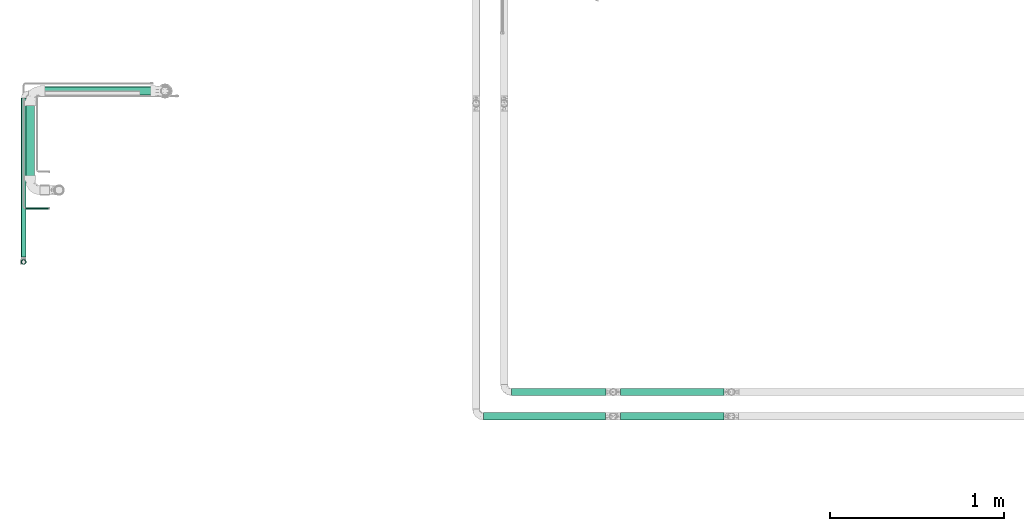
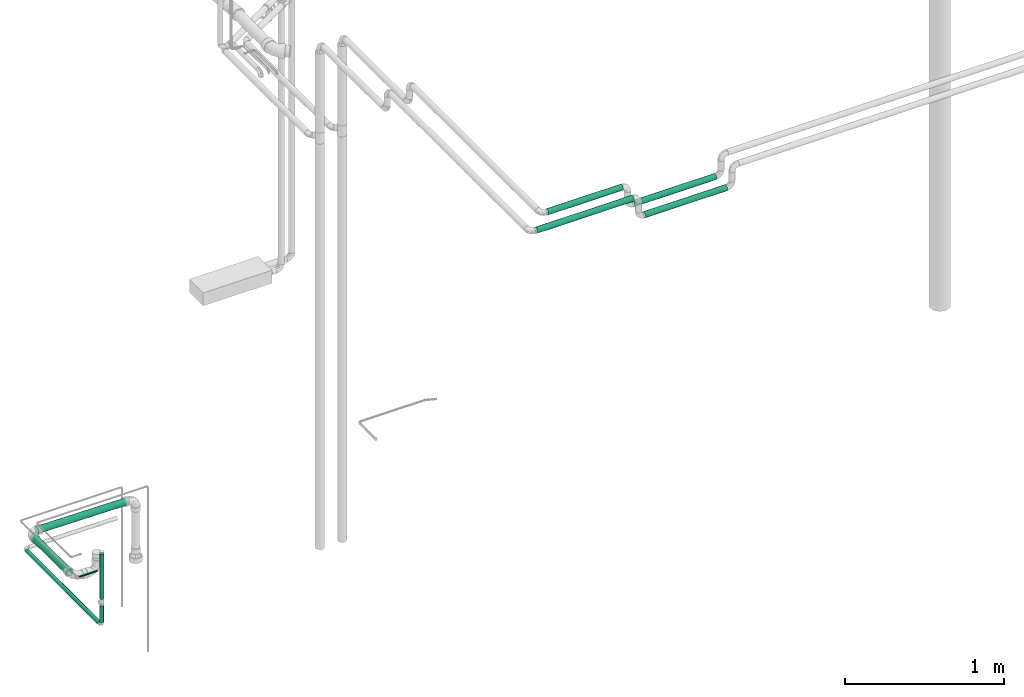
# One storey, part 33 of 108: 10 flow segments.
"""IFC2X3 building model written with IfcOpenShell, lengths in millimetres."""

from ifc_helpers import new_model, entity, si_unit, converted_unit, derived_unit, direction, frame, origin_with_axes, origin_2d_with_axis, place, context, subcontext, project, spatial, hollow_circle, extrude, source, transform, mapped, type_object, element, save


model = new_model("IFC2X3")

# Units and contexts
model_context = context("Model", 3, precision=0.01, world=frame((0.0, 4.29681676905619e-09, 0.0)), true_north=direction((4.01073788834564e-13, 1.0)))
plan_context = context("Plan", 3, precision=0.01, world=frame((0.0, 4.29681676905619e-09, 0.0)), true_north=direction((4.01073788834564e-13, 1.0)))
body_context = subcontext(model_context, "Body", "Model", "MODEL_VIEW")
ifc_project = project(units=[converted_unit("PLANEANGLEUNIT", "DEGREE", entity("IfcPositiveLengthMeasure", 0.0174532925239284), si_unit("PLANEANGLEUNIT", "RADIAN"), dimensions=[0, 0, 0, 0, 0, 0, 0]), si_unit("AREAUNIT", "SQUARE_METRE"), si_unit("LENGTHUNIT", "METRE", prefix="MILLI"), si_unit("MASSUNIT", "GRAM", prefix="KILO"), si_unit("POWERUNIT", "WATT"), si_unit("PRESSUREUNIT", "PASCAL", prefix="KILO"), si_unit("FORCEUNIT", "NEWTON", prefix="KILO"), si_unit("ELECTRICVOLTAGEUNIT", "VOLT"), si_unit("ELECTRICCURRENTUNIT", "AMPERE"), si_unit("THERMODYNAMICTEMPERATUREUNIT", "DEGREE_CELSIUS"), si_unit("TIMEUNIT", "SECOND"), si_unit("VOLUMEUNIT", "CUBIC_METRE"), derived_unit("LINEARVELOCITYUNIT", [(si_unit("LENGTHUNIT", "METRE"), 1), (si_unit("TIMEUNIT", "SECOND"), -1)]), derived_unit("VOLUMETRICFLOWRATEUNIT", [(si_unit("VOLUMEUNIT", "CUBIC_METRE"), 1), (si_unit("TIMEUNIT", "SECOND"), -1)]), derived_unit("THERMALTRANSMITTANCEUNIT", [(si_unit("POWERUNIT", "WATT"), 1), (si_unit("THERMODYNAMICTEMPERATUREUNIT", "KELVIN"), -1), (si_unit("AREAUNIT", "SQUARE_METRE"), -1)]), derived_unit("SOUNDPRESSUREUNIT", [(si_unit("PRESSUREUNIT", "PASCAL"), 1)])], contexts=[model_context, plan_context])

# Site, building, storey
site_placement = place(None, frame((0.0, -4.29681676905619e-09, 0.0), z_axis=(0.0, 0.0, 1.0), x_axis=(1.0, 0.0, 0.0)))
site = spatial("IfcSite", under=ifc_project, at=site_placement, CompositionType="ELEMENT")
building_placement = place(site_placement, frame((0.0, 4.29681676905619e-09, 0.0), z_axis=(0.0, 0.0, 1.0), x_axis=(1.0, 0.0, 0.0)))
building = spatial("IfcBuilding", under=site, at=building_placement, Name="mc-building", CompositionType="ELEMENT")
storey_placement = place(building_placement, frame((0.0, 0.0, 210200.0), z_axis=(0.0, 0.0, 1.0), x_axis=(1.0, 0.0, 0.0)))
storey = spatial("IfcBuildingStorey", under=building, at=storey_placement, Name="Nivå F - 0,7 m", CompositionType="ELEMENT", Elevation=210200.0)

# Flow segments
pipe_segment_type_1 = type_object("IfcPipeSegmentType", Name="PP avløpsrør", PredefinedType="RIGIDSEGMENT")
shared_shape_1 = source(origin_with_axes(), body_context, "Body", "SweptSolid", [
    extrude(hollow_circle(Radius=25.0, WallThickness=2.0, at=origin_2d_with_axis()), frame((0.0, 0.0, 0.0), z_axis=(1.0, 0.0, 0.0), x_axis=(0.0, 1.0, 0.0)), (0.0, 0.0, 1.0), 460.0),
])
flow_segment_1_placement = place(storey_placement, frame((321884.16821, 461610.5489, 496.240060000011), z_axis=(0.0, 0.00997900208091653, 0.999950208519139), x_axis=(0.0, 0.999950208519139, -0.00997900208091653)))
element("IfcFlowSegment", 1, at=flow_segment_1_placement, inside=storey, type_object=pipe_segment_type_1, Name="PP avløpsrør", context=body_context, shape_type="MappedRepresentation", body=[
    mapped(shared_shape_1, transform((0.0, 0.0, 0.0), scale=1.0)),
])
shared_shape_2 = source(origin_with_axes(), body_context, "Body", "SweptSolid", [
    extrude(hollow_circle(Radius=25.0, WallThickness=2.0, at=origin_2d_with_axis()), frame((0.0, 0.0, 0.0), z_axis=(1.0, 0.0, 0.0), x_axis=(0.0, 1.0, 0.0)), (0.0, 0.0, 1.0), 665.6),
])
flow_segment_2_placement = place(storey_placement, frame((321939.15998, 462125.55139, 490.550179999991), z_axis=(0.0099999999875, 0.0, 0.999949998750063), x_axis=(0.999949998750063, 0.0, -0.0099999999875)))
element("IfcFlowSegment", 2, at=flow_segment_2_placement, inside=storey, type_object=pipe_segment_type_1, Name="PP avløpsrør", context=body_context, shape_type="MappedRepresentation", body=[
    mapped(shared_shape_2, transform((0.0, 0.0, 0.0), scale=1.0)),
])
pipe_segment_type_2 = type_object("IfcPipeSegmentType", Name="Kobberrør", PredefinedType="RIGIDSEGMENT")
shared_shape_3 = source(origin_with_axes(), body_context, "Body", "SweptSolid", [
    extrude(hollow_circle(Radius=6.0, WallThickness=2.0, at=origin_2d_with_axis()), frame((0.0, 0.0, 0.0), z_axis=(1.0, 0.0, 0.0), x_axis=(0.0, 1.0, 0.0)), (0.0, 0.0, 1.0), 132.2),
])
flow_segment_3_placement = place(storey_placement, frame((321857.77944, 461449.93583, 569.998250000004), z_axis=(0.00016099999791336, 0.0, 0.9999999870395), x_axis=(0.9999999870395, 0.0, -0.00016099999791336)))
element("IfcFlowSegment", 3, at=flow_segment_3_placement, inside=storey, type_object=pipe_segment_type_2, Name="Kobberrør", context=body_context, shape_type="MappedRepresentation", body=[
    mapped(shared_shape_3, transform((0.0, 0.0, 0.0), scale=1.0)),
])
pipe_segment_type_3 = type_object("IfcPipeSegmentType", Name="Stålrør normaltykke", PredefinedType="RIGIDSEGMENT")
shared_shape_4 = source(origin_with_axes(), body_context, "Body", "SweptSolid", [
    extrude(hollow_circle(Radius=21.2, WallThickness=2.0, at=origin_2d_with_axis()), frame((0.0, 0.0, 0.0), z_axis=(1.0, 0.0, 0.0), x_axis=(0.0, 1.0, 0.0)), (0.0, 0.0, 1.0), 542.6),
])
flow_segment_4_placement = place(storey_placement, frame((324652.62236, 460394.12277, 3038.28479999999), z_axis=(0.0, 0.0, 1.0), x_axis=(1.0, 0.0, 0.0)))
element("IfcFlowSegment", 4, at=flow_segment_4_placement, inside=storey, type_object=pipe_segment_type_3, Name="Stålrør normaltykke", context=body_context, shape_type="MappedRepresentation", body=[
    mapped(shared_shape_4, transform((0.0, 0.0, 0.0), scale=1.0)),
])
shared_shape_5 = source(origin_with_axes(), body_context, "Body", "SweptSolid", [
    extrude(hollow_circle(Radius=21.2, WallThickness=2.0, at=origin_2d_with_axis()), frame((0.0, 0.0, 0.0), z_axis=(1.0, 0.0, 0.0), x_axis=(0.0, 1.0, 0.0)), (0.0, 0.0, 1.0), 702.6),
])
flow_segment_5_placement = place(storey_placement, frame((324491.2625, 460254.12277, 3038.28479999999), z_axis=(0.0, 0.0, 1.0), x_axis=(1.0, 0.0, 0.0)))
element("IfcFlowSegment", 5, at=flow_segment_5_placement, inside=storey, type_object=pipe_segment_type_3, Name="Stålrør normaltykke", context=body_context, shape_type="MappedRepresentation", body=[
    mapped(shared_shape_5, transform((0.0, 0.0, 0.0), scale=1.0)),
])
shared_shape_6 = source(origin_with_axes(), body_context, "Body", "SweptSolid", [
    extrude(hollow_circle(Radius=21.2, WallThickness=2.0, at=origin_2d_with_axis()), frame((0.0, 0.0, 0.0), z_axis=(1.0, 0.0, 0.0), x_axis=(0.0, 1.0, 0.0)), (0.0, 0.0, 1.0), 595.2),
])
for number, where, z_axis, x_axis in (
    (6, (325280.02236, 460394.12277, 2882.13959999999), (0.0, 0.0, 1.0), (1.0, 0.0, 0.0)),
    (7, (325278.6625, 460254.12277, 2882.13959999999), (0.0, 0.0, 1.0), (1.0, 0.0, 0.0)),
):
    element("IfcFlowSegment", number, at=place(storey_placement, frame(where, z_axis=z_axis, x_axis=x_axis)), inside=storey, type_object=pipe_segment_type_3, Name="Stålrør normaltykke", context=body_context, shape_type="MappedRepresentation", body=[
        mapped(shared_shape_6, transform((0.0, 0.0, 0.0), scale=1.0)),
    ])
shared_shape_7 = source(origin_with_axes(), body_context, "Body", "SweptSolid", [
    extrude(hollow_circle(Radius=14.0, WallThickness=2.0, at=origin_2d_with_axis()), frame((0.0, 0.0, 0.0), z_axis=(1.0, 0.0, 0.0), x_axis=(0.0, 1.0, 0.0)), (0.0, 0.0, 1.0), 344.0),
])
flow_segment_6_placement = place(storey_placement, frame((321845.71299, 461141.93584, 597.633689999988), z_axis=(0.0, 1.0, 0.0), x_axis=(0.0, 0.0, 1.0)))
element("IfcFlowSegment", 8, at=flow_segment_6_placement, inside=storey, type_object=pipe_segment_type_2, Name="Kobberrør", context=body_context, shape_type="MappedRepresentation", body=[
    mapped(shared_shape_7, transform((0.0, 0.0, 0.0), scale=1.0)),
])
shared_shape_8 = source(origin_with_axes(), body_context, "Body", "SweptSolid", [
    extrude(hollow_circle(Radius=14.0, WallThickness=2.0, at=origin_2d_with_axis()), frame((0.0, 0.0, 0.0), z_axis=(1.0, 0.0, 0.0), x_axis=(0.0, 1.0, 0.0)), (0.0, 0.0, 1.0), 915.7),
])
flow_segment_7_placement = place(storey_placement, frame((321845.71299, 462085.63355, 390.282059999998), z_axis=(0.0, 0.0, 1.0), x_axis=(0.0, -1.0, 0.0)))
element("IfcFlowSegment", 9, at=flow_segment_7_placement, inside=storey, type_object=pipe_segment_type_2, Name="Kobberrør", context=body_context, shape_type="MappedRepresentation", body=[
    mapped(shared_shape_8, transform((0.0, 0.0, 0.0), scale=1.0)),
])
shared_shape_9 = source(origin_with_axes(), body_context, "Body", "SweptSolid", [
    extrude(hollow_circle(Radius=14.0, WallThickness=2.0, at=origin_2d_with_axis()), frame((0.0, 0.0, 0.0), z_axis=(1.0, 0.0, 0.0), x_axis=(0.0, 1.0, 0.0)), (0.0, 0.0, 1.0), 123.4),
])
flow_segment_8_placement = place(storey_placement, frame((321845.71299, 461141.93584, 418.282059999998), z_axis=(1.0, 0.0, 0.0), x_axis=(0.0, 0.0, 1.0)))
element("IfcFlowSegment", 10, at=flow_segment_8_placement, inside=storey, type_object=pipe_segment_type_2, Name="Kobberrør", context=body_context, shape_type="MappedRepresentation", body=[
    mapped(shared_shape_9, transform((0.0, 0.0, 0.0), scale=1.0)),
])

save(model, "model.ifc")
